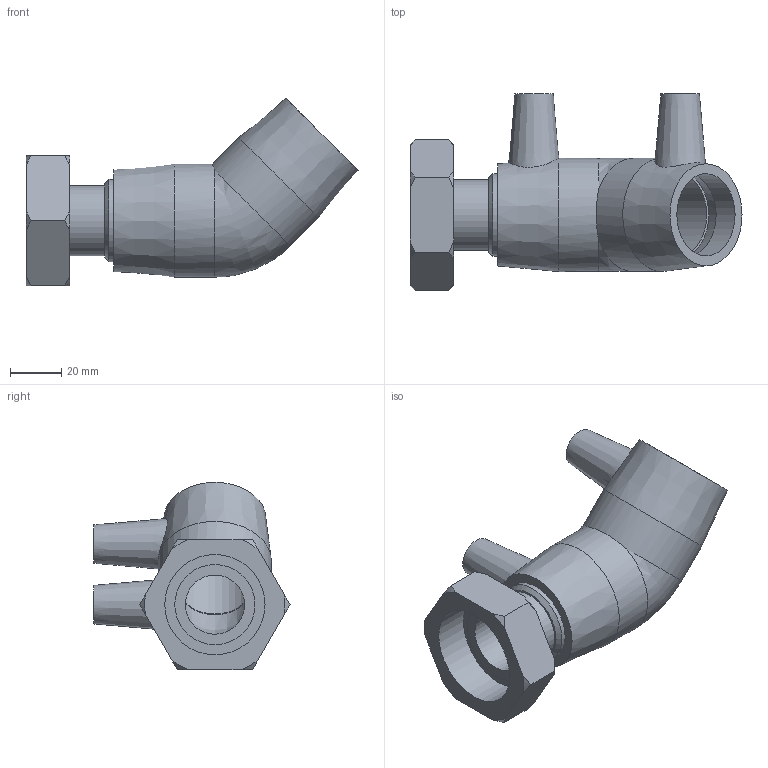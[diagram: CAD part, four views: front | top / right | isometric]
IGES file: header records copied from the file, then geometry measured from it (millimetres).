
Global section: file name: 494604032013.ipt; native system: Autodesk Inventor 2015; preprocessor: unknown; author: KIM; date: 20171106.094153; units: millimetre
Bounding box: 129 x 76.21 x 72.85 mm (x, y, z)
Volume: 113546.4 mm3; surface area: 38650 mm2
Topology: 1 solids, 2 shells, 62 faces, 149 edges, 100 vertices
Faces by surface type: plane 23, cone 17, revolution 13, cylinder 8, bspline 1
Full cylindrical faces by diameter (mm): 4 x2, 27.266 x1, 31.162 x1, 32 x2, 44 x2
